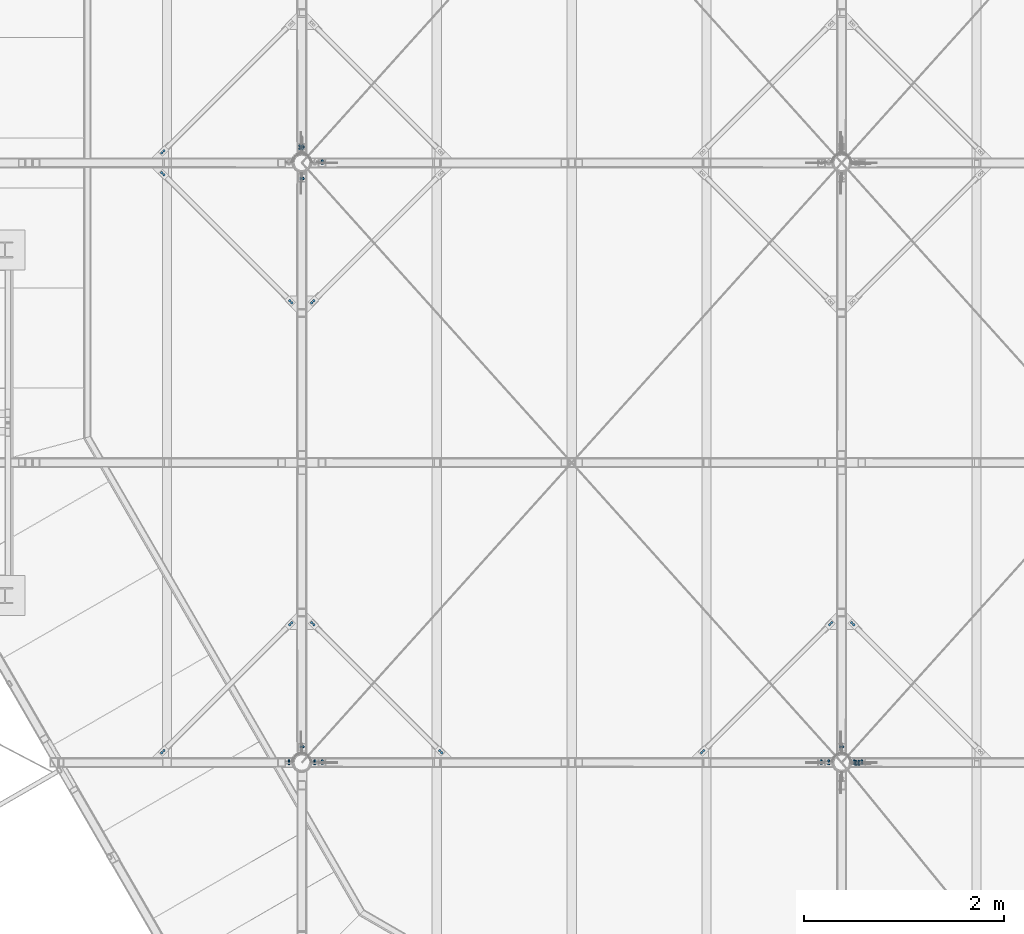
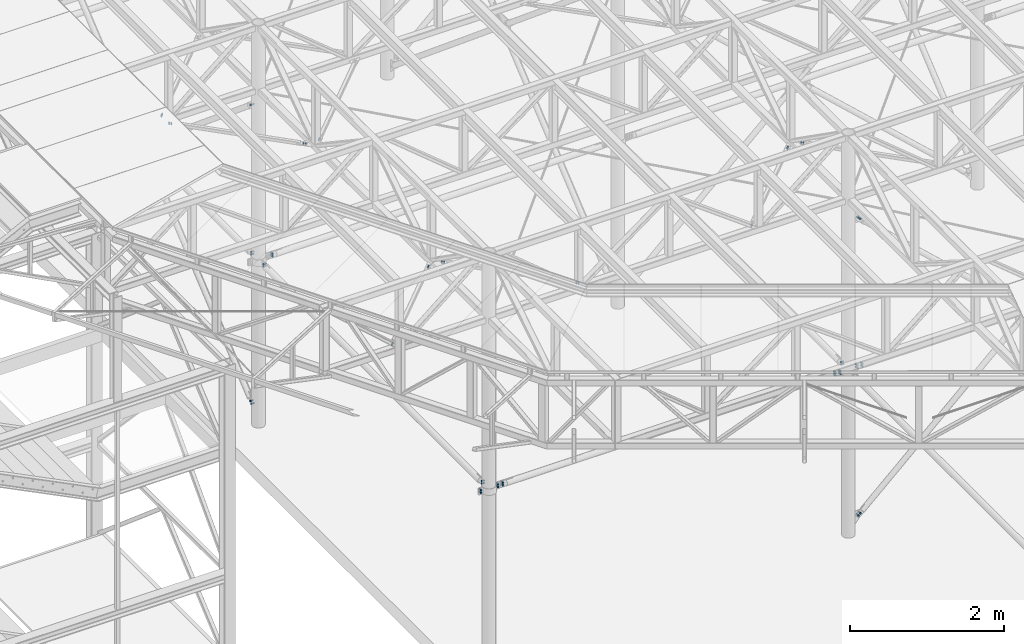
# One storey, part 115 of 132: 29 mechanical fasteners, 21 elements without a shape of their own.
"""IFC2X3 building model written with IfcOpenShell, lengths in millimetres."""

from ifc_helpers import new_model, si_unit, frame, origin_with_axes, origin_2d_with_axis, place, context, subcontext, project, spatial, polyline, circle, outline, extrude, source, transform, mapped, material, type_object, element, aggregate, save


model = new_model("IFC2X3")

# Units and contexts
model_context = context("Model", 3, precision=1e-05, world=origin_with_axes())
body_context = subcontext(model_context, "Body", "Model", "MODEL_VIEW")
ifc_project = project(units=[si_unit("LENGTHUNIT", "METRE", prefix="MILLI"), si_unit("AREAUNIT", "SQUARE_METRE"), si_unit("VOLUMEUNIT", "CUBIC_METRE"), si_unit("MASSUNIT", "GRAM", prefix="KILO"), si_unit("TIMEUNIT", "SECOND"), si_unit("PLANEANGLEUNIT", "RADIAN"), si_unit("SOLIDANGLEUNIT", "STERADIAN"), si_unit("THERMODYNAMICTEMPERATUREUNIT", "DEGREE_CELSIUS"), si_unit("LUMINOUSINTENSITYUNIT", "LUMEN")], contexts=[model_context])

# Site, building, storey
site_placement = place(None, origin_with_axes())
site = spatial("IfcSite", under=ifc_project, at=site_placement, Name="Budowa", CompositionType="ELEMENT")
building_placement = place(site_placement, origin_with_axes())
building = spatial("IfcBuilding", under=site, at=building_placement, Name="Undefined", CompositionType="ELEMENT")
storey_placement = place(building_placement, origin_with_axes())
storey = spatial("IfcBuildingStorey", under=building, at=storey_placement, Name="Undefined", CompositionType="ELEMENT", Elevation=0.0)

# Assembly, mechanical fastener
assembly_1_placement = place(storey_placement, origin_with_axes())
assembly_1 = element("IfcElementAssembly", 1, at=assembly_1_placement, inside=storey, Name="Steel Assembly", AssemblyPlace="NOTDEFINED", PredefinedType="RIGID_FRAME")
ifc_material = material(Name="Undefined")
discrete_accessory_type = type_object("IfcDiscreteAccessoryType", Name="Bolt assembly")
shared_shape_1 = source(origin_with_axes(), body_context, "Body", "SweptSolid", [
    extrude(circle(Radius=9.0, at=origin_2d_with_axis()), frame((0.0, 0.0999999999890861, 0.0), z_axis=(0.0, 1.0, 0.0), x_axis=(1.0, 0.0, 0.0)), (0.0, 0.0, 1.0), 8.0),
    extrude(circle(Radius=9.0, at=origin_2d_with_axis()), frame((0.0, 11.9000000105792, 0.0), z_axis=(0.0, 1.0, 0.0), x_axis=(1.0, 0.0, 0.0)), (0.0, 0.0, 1.0), 8.1),
    extrude(outline(polyline([(13.85640646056, 0.0), (6.92820323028, 12.0000000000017), (-6.92820323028, 12.0000000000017), (-13.85640646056, 0.0), (-6.92820323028, -12.0000000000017), (6.92820323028, -12.0000000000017), (13.85640646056, 0.0)])), frame((0.0, -13.0, 0.0), z_axis=(0.0, 1.0, 0.0), x_axis=(1.0, 0.0, 0.0)), (0.0, 0.0, 1.0), 10.0),
    extrude(circle(Radius=8.0, at=origin_2d_with_axis()), frame((0.0, -2.99999999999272, 0.0), z_axis=(0.0, 1.0, 0.0), x_axis=(1.0, 0.0, 0.0)), (0.0, 0.0, 1.0), 45.0),
    extrude(circle(Radius=15.0, at=origin_2d_with_axis()), frame((0.0, -2.99999999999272, 0.0), z_axis=(0.0, 1.0, 0.0), x_axis=(1.0, 0.0, 0.0)), (0.0, 0.0, 1.0), 3.0),
    extrude(circle(Radius=15.0, at=origin_2d_with_axis()), frame((0.0, 20.0000000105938, 0.0), z_axis=(0.0, 1.0, 0.0), x_axis=(1.0, 0.0, 0.0)), (0.0, 0.0, 1.0), 3.0),
    extrude(outline(polyline([(13.85640646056, 0.0), (6.92820323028, 12.0000000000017), (-6.92820323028, 12.0000000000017), (-13.85640646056, 0.0), (-6.92820323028, -12.0000000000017), (6.92820323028, -12.0000000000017), (13.85640646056, 0.0)])), frame((0.0, 23.0000000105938, 0.0), z_axis=(0.0, 1.0, 0.0), x_axis=(1.0, 0.0, 0.0)), (0.0, 0.0, 1.0), 13.0),
])
mechanical_fastener_1_placement = place(assembly_1_placement, frame((3896.86328702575, 5990.00000009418, 10096.0003779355), z_axis=(-1.0, 0.0, 0.0), x_axis=(0.0, 0.0, 1.0)))
mechanical_fastener_1 = element("IfcMechanicalFastener", 2, at=mechanical_fastener_1_placement, type_object=discrete_accessory_type, material=ifc_material, Name="Bolt assembly", NominalDiameter=16.0, NominalLength=45.0, context=body_context, shape_type="MappedRepresentation", body=[
    mapped(shared_shape_1, transform((0.0, 0.0, 0.0))),
    mapped(shared_shape_1, transform((40.0000000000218, 0.0, -1.81898940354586e-12))),
])

assembly_2_placement = place(storey_placement, origin_with_axes())
assembly_2 = element("IfcElementAssembly", 3, at=assembly_2_placement, inside=storey, Name="Steel Assembly", AssemblyPlace="NOTDEFINED", PredefinedType="RIGID_FRAME")
mechanical_fastener_2_placement = place(assembly_2_placement, frame((9296.86328710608, 5990.00000004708, 10096.0003779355), z_axis=(-1.0, 0.0, 0.0), x_axis=(0.0, 0.0, 1.0)))
mechanical_fastener_2 = element("IfcMechanicalFastener", 4, at=mechanical_fastener_2_placement, type_object=discrete_accessory_type, material=ifc_material, Name="Bolt assembly", NominalDiameter=16.0, NominalLength=45.0, context=body_context, shape_type="MappedRepresentation", body=[
    mapped(shared_shape_1, transform((0.0, 0.0, 0.0))),
    mapped(shared_shape_1, transform((40.0000000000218, 0.0, -1.81898940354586e-12))),
])

assembly_3_placement = place(storey_placement, origin_with_axes())
assembly_3 = element("IfcElementAssembly", 5, at=assembly_3_placement, inside=storey, Name="Steel Assembly", AssemblyPlace="NOTDEFINED", PredefinedType="RIGID_FRAME")
shared_shape_2 = source(origin_with_axes(), body_context, "Body", "SweptSolid", [
    extrude(circle(Radius=9.0, at=origin_2d_with_axis()), frame((0.0, -4.09999999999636, 0.0), z_axis=(0.0, 1.0, 0.0), x_axis=(1.0, 0.0, 0.0)), (0.0, 0.0, 1.0), 8.1),
    extrude(circle(Radius=9.0, at=origin_2d_with_axis()), frame((0.0, -11.9, 0.0), z_axis=(0.0, 1.0, 0.0), x_axis=(1.0, 0.0, 0.0)), (0.0, 0.0, 1.0), 8.0),
    extrude(outline(polyline([(13.85640646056, 0.0), (6.92820323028, 12.0000000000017), (-6.92820323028, 12.0000000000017), (-13.85640646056, 0.0), (-6.92820323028, -12.0000000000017), (6.92820323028, -12.0000000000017), (13.85640646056, 0.0)])), frame((0.0, -25.0, 0.0), z_axis=(0.0, 1.0, 0.0), x_axis=(1.0, 0.0, 0.0)), (0.0, 0.0, 1.0), 10.0),
    extrude(circle(Radius=8.0, at=origin_2d_with_axis()), frame((0.0, -15.0, 0.0), z_axis=(0.0, 1.0, 0.0), x_axis=(1.0, 0.0, 0.0)), (0.0, 0.0, 1.0), 40.0),
    extrude(circle(Radius=15.0, at=origin_2d_with_axis()), frame((0.0, -15.0, 0.0), z_axis=(0.0, 1.0, 0.0), x_axis=(1.0, 0.0, 0.0)), (0.0, 0.0, 1.0), 3.0),
    extrude(circle(Radius=15.0, at=origin_2d_with_axis()), frame((0.0, 4.0, 0.0), z_axis=(0.0, 1.0, 0.0), x_axis=(1.0, 0.0, 0.0)), (0.0, 0.0, 1.0), 3.0),
    extrude(outline(polyline([(13.85640646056, 0.0), (6.92820323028, 12.0000000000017), (-6.92820323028, 12.0000000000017), (-13.85640646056, 0.0), (-6.92820323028, -12.0000000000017), (6.92820323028, -12.0000000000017), (13.85640646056, 0.0)])), frame((0.0, 7.0, 0.0), z_axis=(0.0, 1.0, 0.0), x_axis=(1.0, 0.0, 0.0)), (0.0, 0.0, 1.0), 13.0),
])
mechanical_fastener_3_placement = place(assembly_3_placement, frame((4025.0000027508, 12157.9079054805, 10116.0003779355), z_axis=(0.0, 0.0, -1.0), x_axis=(0.0, 1.0, 0.0)))
mechanical_fastener_3 = element("IfcMechanicalFastener", 6, at=mechanical_fastener_3_placement, type_object=discrete_accessory_type, material=ifc_material, Name="Bolt assembly", NominalDiameter=16.0, NominalLength=40.0, context=body_context, shape_type="MappedRepresentation", body=[
    mapped(shared_shape_2, transform((0.0, 0.0, -20.0))),
    mapped(shared_shape_2, transform((0.0, 0.0, 20.0))),
])
aggregate(assembly_3, [mechanical_fastener_3])

# Assembly, mechanical fasteners
assembly_4_placement = place(storey_placement, origin_with_axes())
assembly_4 = element("IfcElementAssembly", 7, at=assembly_4_placement, inside=storey, Name="Steel Assembly", AssemblyPlace="NOTDEFINED", PredefinedType="RIGID_FRAME")
mechanical_fastener_4_placement = place(assembly_4_placement, frame((4025.00000247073, 11842.0920947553, 10116.0003779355), z_axis=(0.0, 0.0, 1.0), x_axis=(0.0, -1.0, 0.0)))
mechanical_fastener_4 = element("IfcMechanicalFastener", 8, at=mechanical_fastener_4_placement, type_object=discrete_accessory_type, material=ifc_material, Name="Bolt assembly", NominalDiameter=16.0, NominalLength=40.0, context=body_context, shape_type="MappedRepresentation", body=[
    mapped(shared_shape_2, transform((0.0, 0.0, -20.0))),
    mapped(shared_shape_2, transform((0.0, 0.0, 20.0))),
])
mechanical_fastener_5_placement = place(assembly_4_placement, frame((4025.0000027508, 6157.90790548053, 10116.0003779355), z_axis=(0.0, 0.0, -1.0), x_axis=(0.0, 1.0, 0.0)))
mechanical_fastener_5 = element("IfcMechanicalFastener", 9, at=mechanical_fastener_5_placement, type_object=discrete_accessory_type, material=ifc_material, Name="Bolt assembly", NominalDiameter=16.0, NominalLength=40.0, context=body_context, shape_type="MappedRepresentation", body=[
    mapped(shared_shape_2, transform((0.0, 0.0, -20.0))),
    mapped(shared_shape_2, transform((0.0, 0.0, 20.0))),
])
aggregate(assembly_4, [mechanical_fastener_4, mechanical_fastener_5])

# Assembly, mechanical fastener
assembly_5_placement = place(storey_placement, origin_with_axes())
assembly_5 = element("IfcElementAssembly", 10, at=assembly_5_placement, inside=storey, Name="Steel Assembly", AssemblyPlace="NOTDEFINED", PredefinedType="RIGID_FRAME")
mechanical_fastener_6_placement = place(assembly_5_placement, frame((9425.00000277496, 6157.90790542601, 10116.0003779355), z_axis=(0.0, 0.0, -1.0), x_axis=(0.0, 1.0, 0.0)))
mechanical_fastener_6 = element("IfcMechanicalFastener", 11, at=mechanical_fastener_6_placement, type_object=discrete_accessory_type, material=ifc_material, Name="Bolt assembly", NominalDiameter=16.0, NominalLength=40.0, context=body_context, shape_type="MappedRepresentation", body=[
    mapped(shared_shape_2, transform((0.0, 0.0, -20.0))),
    mapped(shared_shape_2, transform((0.0, 0.0, 20.0))),
])
aggregate(assembly_5, [mechanical_fastener_6])

assembly_6_placement = place(storey_placement, origin_with_axes())
assembly_6 = element("IfcElementAssembly", 12, at=assembly_6_placement, inside=storey, Name="Steel Assembly", AssemblyPlace="NOTDEFINED", PredefinedType="RIGID_FRAME")
mechanical_fastener_7_placement = place(assembly_6_placement, frame((9565.67385234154, 5999.99999762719, 7751.79053475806), z_axis=(-0.678551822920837, 0.0, 0.734552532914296), x_axis=(0.734552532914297, 0.0, 0.678551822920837)))
mechanical_fastener_7 = element("IfcMechanicalFastener", 13, at=mechanical_fastener_7_placement, type_object=discrete_accessory_type, material=ifc_material, Name="Bolt assembly", NominalDiameter=16.0, NominalLength=40.0, context=body_context, shape_type="MappedRepresentation", body=[
    mapped(shared_shape_2, transform((0.0, 0.0, 0.0))),
    mapped(shared_shape_2, transform((40.0000000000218, 0.0, -1.81898940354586e-12))),
])
aggregate(assembly_6, [mechanical_fastener_7])

assembly_7_placement = place(storey_placement, origin_with_axes())
assembly_7 = element("IfcElementAssembly", 14, at=assembly_7_placement, inside=storey, Name="Steel Assembly", AssemblyPlace="NOTDEFINED", PredefinedType="RIGID_FRAME")
mechanical_fastener_8_placement = place(assembly_7_placement, frame((9565.67385211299, 5999.99999752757, 12480.210221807), z_axis=(0.678551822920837, 0.0, 0.734552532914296), x_axis=(0.734552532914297, 0.0, -0.678551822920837)))
mechanical_fastener_8 = element("IfcMechanicalFastener", 15, at=mechanical_fastener_8_placement, type_object=discrete_accessory_type, material=ifc_material, Name="Bolt assembly", NominalDiameter=16.0, NominalLength=40.0, context=body_context, shape_type="MappedRepresentation", body=[
    mapped(shared_shape_2, transform((0.0, 0.0, 0.0))),
    mapped(shared_shape_2, transform((40.0000000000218, 0.0, -1.81898940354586e-12))),
])
aggregate(assembly_7, [mechanical_fastener_8])

assembly_8_placement = place(storey_placement, origin_with_axes())
assembly_8 = element("IfcElementAssembly", 16, at=assembly_8_placement, inside=storey, Name="Steel Assembly", AssemblyPlace="NOTDEFINED", PredefinedType="RIGID_FRAME")
shared_shape_3 = source(origin_with_axes(), body_context, "Body", "SweptSolid", [
    extrude(circle(Radius=9.0, at=origin_2d_with_axis()), frame((0.0, 0.0999999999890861, 0.0), z_axis=(0.0, 1.0, 0.0), x_axis=(1.0, 0.0, 0.0)), (0.0, 0.0, 1.0), 8.0),
    extrude(circle(Radius=9.0, at=origin_2d_with_axis()), frame((0.0, 7.9000007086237, 0.0), z_axis=(0.0, 1.0, 0.0), x_axis=(1.0, 0.0, 0.0)), (0.0, 0.0, 1.0), 8.1),
    extrude(outline(polyline([(13.85640646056, 0.0), (6.92820323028, 12.0000000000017), (-6.92820323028, 12.0000000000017), (-13.85640646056, 0.0), (-6.92820323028, -12.0000000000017), (6.92820323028, -12.0000000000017), (13.85640646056, 0.0)])), frame((0.0, -13.0, 0.0), z_axis=(0.0, 1.0, 0.0), x_axis=(1.0, 0.0, 0.0)), (0.0, 0.0, 1.0), 10.0),
    extrude(circle(Radius=8.0, at=origin_2d_with_axis()), frame((0.0, -2.99999999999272, 0.0), z_axis=(0.0, 1.0, 0.0), x_axis=(1.0, 0.0, 0.0)), (0.0, 0.0, 1.0), 40.0),
    extrude(circle(Radius=15.0, at=origin_2d_with_axis()), frame((0.0, -2.99999999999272, 0.0), z_axis=(0.0, 1.0, 0.0), x_axis=(1.0, 0.0, 0.0)), (0.0, 0.0, 1.0), 3.0),
    extrude(circle(Radius=15.0, at=origin_2d_with_axis()), frame((0.0, 16.0000007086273, 0.0), z_axis=(0.0, 1.0, 0.0), x_axis=(1.0, 0.0, 0.0)), (0.0, 0.0, 1.0), 3.0),
    extrude(outline(polyline([(13.85640646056, 0.0), (6.92820323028, 12.0000000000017), (-6.92820323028, 12.0000000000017), (-13.85640646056, 0.0), (-6.92820323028, -12.0000000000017), (6.92820323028, -12.0000000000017), (13.85640646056, 0.0)])), frame((0.0, 19.0000007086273, 0.0), z_axis=(0.0, 1.0, 0.0), x_axis=(1.0, 0.0, 0.0)), (0.0, 0.0, 1.0), 13.0),
])
mechanical_fastener_9_placement = place(assembly_8_placement, frame((4228.13669400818, 11993.9999994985, 10096.0003779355), z_axis=(-1.0, 0.0, 0.0), x_axis=(0.0, 0.0, 1.0)))
mechanical_fastener_9 = element("IfcMechanicalFastener", 17, at=mechanical_fastener_9_placement, type_object=discrete_accessory_type, material=ifc_material, Name="Bolt assembly", NominalDiameter=16.0, NominalLength=40.0, context=body_context, shape_type="MappedRepresentation", body=[
    mapped(shared_shape_3, transform((0.0, 0.0, 0.0))),
    mapped(shared_shape_3, transform((40.0000000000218, 0.0, -1.81898940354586e-12))),
])
aggregate(assembly_8, [mechanical_fastener_9])

# Mechanical fastener
mechanical_fastener_10_placement = place(assembly_1_placement, frame((4228.13669400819, 5993.99999949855, 10096.0003779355), z_axis=(-1.0, 0.0, 0.0), x_axis=(0.0, 0.0, 1.0)))
mechanical_fastener_10 = element("IfcMechanicalFastener", 18, at=mechanical_fastener_10_placement, type_object=discrete_accessory_type, material=ifc_material, Name="Bolt assembly", NominalDiameter=16.0, NominalLength=40.0, context=body_context, shape_type="MappedRepresentation", body=[
    mapped(shared_shape_3, transform((0.0, 0.0, 0.0))),
    mapped(shared_shape_3, transform((40.0000000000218, 0.0, -1.81898940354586e-12))),
])

aggregate(assembly_1, [mechanical_fastener_10, mechanical_fastener_1])

mechanical_fastener_11_placement = place(assembly_2_placement, frame((9221.86330560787, 5993.99999945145, 10096.0003779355), z_axis=(-1.0, 0.0, 0.0), x_axis=(0.0, 0.0, 1.0)))
mechanical_fastener_11 = element("IfcMechanicalFastener", 19, at=mechanical_fastener_11_placement, type_object=discrete_accessory_type, material=ifc_material, Name="Bolt assembly", NominalDiameter=16.0, NominalLength=40.0, context=body_context, shape_type="MappedRepresentation", body=[
    mapped(shared_shape_3, transform((0.0, 0.0, 0.0))),
    mapped(shared_shape_3, transform((40.0000000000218, 0.0, -1.81898940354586e-12))),
])

mechanical_fastener_12_placement = place(assembly_2_placement, frame((9628.13669408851, 5993.99999945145, 10096.0003779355), z_axis=(-1.0, 0.0, 0.0), x_axis=(0.0, 0.0, 1.0)))
mechanical_fastener_12 = element("IfcMechanicalFastener", 20, at=mechanical_fastener_12_placement, type_object=discrete_accessory_type, material=ifc_material, Name="Bolt assembly", NominalDiameter=16.0, NominalLength=40.0, context=body_context, shape_type="MappedRepresentation", body=[
    mapped(shared_shape_3, transform((0.0, 0.0, 0.0))),
    mapped(shared_shape_3, transform((40.0000000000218, 0.0, -1.81898940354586e-12))),
])

aggregate(assembly_2, [mechanical_fastener_11, mechanical_fastener_12, mechanical_fastener_2])

# Assembly, mechanical fastener
assembly_9_placement = place(storey_placement, origin_with_axes())
assembly_9 = element("IfcElementAssembly", 21, at=assembly_9_placement, inside=storey, Name="Steel Assembly", AssemblyPlace="NOTDEFINED", PredefinedType="RIGID_FRAME")
shared_shape_4 = source(origin_with_axes(), body_context, "Body", "SweptSolid", [
    extrude(circle(Radius=9.0, at=origin_2d_with_axis()), frame((0.0, 11.9000000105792, 0.0), z_axis=(0.0, 1.0, 0.0), x_axis=(1.0, 0.0, 0.0)), (0.0, 0.0, 1.0), 8.1),
    extrude(circle(Radius=9.0, at=origin_2d_with_axis()), frame((0.0, 0.0999999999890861, 0.0), z_axis=(0.0, 1.0, 0.0), x_axis=(1.0, 0.0, 0.0)), (0.0, 0.0, 1.0), 8.0),
    extrude(outline(polyline([(13.85640646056, 0.0), (6.92820323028, 12.0000000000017), (-6.92820323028, 12.0000000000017), (-13.85640646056, 0.0), (-6.92820323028, -12.0000000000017), (6.92820323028, -12.0000000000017), (13.85640646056, 0.0)])), frame((0.0, -13.0, 0.0), z_axis=(0.0, 1.0, 0.0), x_axis=(1.0, 0.0, 0.0)), (0.0, 0.0, 1.0), 10.0),
    extrude(circle(Radius=8.0, at=origin_2d_with_axis()), frame((0.0, -2.99999999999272, 0.0), z_axis=(0.0, 1.0, 0.0), x_axis=(1.0, 0.0, 0.0)), (0.0, 0.0, 1.0), 45.0),
    extrude(circle(Radius=15.0, at=origin_2d_with_axis()), frame((0.0, -2.99999999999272, 0.0), z_axis=(0.0, 1.0, 0.0), x_axis=(1.0, 0.0, 0.0)), (0.0, 0.0, 1.0), 3.0),
    extrude(circle(Radius=15.0, at=origin_2d_with_axis()), frame((0.0, 20.0000000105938, 0.0), z_axis=(0.0, 1.0, 0.0), x_axis=(1.0, 0.0, 0.0)), (0.0, 0.0, 1.0), 3.0),
    extrude(outline(polyline([(13.85640646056, 0.0), (6.92820323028, 12.0000000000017), (-6.92820323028, 12.0000000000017), (-13.85640646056, 0.0), (-6.92820323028, -12.0000000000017), (6.92820323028, -12.0000000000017), (13.85640646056, 0.0)])), frame((0.0, 23.0000000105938, 0.0), z_axis=(0.0, 1.0, 0.0), x_axis=(1.0, 0.0, 0.0)), (0.0, 0.0, 1.0), 13.0),
])
mechanical_fastener_13_placement = place(assembly_9_placement, frame((4153.13669400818, 5989.99999999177, 10096.0003779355), z_axis=(-1.0, 0.0, 0.0), x_axis=(0.0, 0.0, 1.0)))
mechanical_fastener_13 = element("IfcMechanicalFastener", 22, at=mechanical_fastener_13_placement, type_object=discrete_accessory_type, material=ifc_material, Name="Bolt assembly", NominalDiameter=16.0, NominalLength=45.0, context=body_context, shape_type="MappedRepresentation", body=[
    mapped(shared_shape_4, transform((0.0, 0.0, 0.0))),
    mapped(shared_shape_4, transform((40.0000000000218, 0.0, -1.81898940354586e-12))),
])
aggregate(assembly_9, [mechanical_fastener_13])

assembly_10_placement = place(storey_placement, origin_with_axes())
assembly_10 = element("IfcElementAssembly", 23, at=assembly_10_placement, inside=storey, Name="Steel Assembly", AssemblyPlace="NOTDEFINED", PredefinedType="RIGID_FRAME")
mechanical_fastener_14_placement = place(assembly_10_placement, frame((9553.13669408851, 5989.99999994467, 10096.0003779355), z_axis=(-1.0, 0.0, 0.0), x_axis=(0.0, 0.0, 1.0)))
mechanical_fastener_14 = element("IfcMechanicalFastener", 24, at=mechanical_fastener_14_placement, type_object=discrete_accessory_type, material=ifc_material, Name="Bolt assembly", NominalDiameter=16.0, NominalLength=45.0, context=body_context, shape_type="MappedRepresentation", body=[
    mapped(shared_shape_4, transform((0.0, 0.0, 0.0))),
    mapped(shared_shape_4, transform((40.0000000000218, 0.0, -1.81898940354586e-12))),
])
aggregate(assembly_10, [mechanical_fastener_14])

assembly_11_placement = place(storey_placement, origin_with_axes())
assembly_11 = element("IfcElementAssembly", 25, at=assembly_11_placement, inside=storey, Name="Steel Assembly", AssemblyPlace="NOTDEFINED", PredefinedType="RIGID_FRAME")
shared_shape_5 = source(origin_with_axes(), body_context, "Body", "SweptSolid", [
    extrude(circle(Radius=9.0, at=origin_2d_with_axis()), frame((0.0, -3.9000024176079, 0.0), z_axis=(0.0, 1.0, 0.0), x_axis=(1.0, 0.0, 0.0)), (0.0, 0.0, 1.0), 8.0),
    extrude(circle(Radius=9.0, at=origin_2d_with_axis()), frame((0.0, 3.90000010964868, 0.0), z_axis=(0.0, 1.0, 0.0), x_axis=(1.0, 0.0, 0.0)), (0.0, 0.0, 1.0), 8.1),
    extrude(outline(polyline([(13.85640646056, 0.0), (6.92820323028, 12.0000000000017), (-6.92820323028, 12.0000000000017), (-13.85640646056, 0.0), (-6.92820323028, -12.0000000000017), (6.92820323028, -12.0000000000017), (13.85640646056, 0.0)])), frame((0.0, -17.0000024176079, 0.0), z_axis=(0.0, 1.0, 0.0), x_axis=(1.0, 0.0, 0.0)), (0.0, 0.0, 1.0), 10.0),
    extrude(circle(Radius=8.0, at=origin_2d_with_axis()), frame((0.0, -7.0000024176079, 0.0), z_axis=(0.0, 1.0, 0.0), x_axis=(1.0, 0.0, 0.0)), (0.0, 0.0, 1.0), 40.0),
    extrude(circle(Radius=15.0, at=origin_2d_with_axis()), frame((0.0, -7.0000024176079, 0.0), z_axis=(0.0, 1.0, 0.0), x_axis=(1.0, 0.0, 0.0)), (0.0, 0.0, 1.0), 3.0),
    extrude(circle(Radius=15.0, at=origin_2d_with_axis()), frame((0.0, 12.0000001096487, 0.0), z_axis=(0.0, 1.0, 0.0), x_axis=(1.0, 0.0, 0.0)), (0.0, 0.0, 1.0), 3.0),
    extrude(outline(polyline([(13.85640646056, 0.0), (6.92820323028, 12.0000000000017), (-6.92820323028, 12.0000000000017), (-13.85640646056, 0.0), (-6.92820323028, -12.0000000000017), (6.92820323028, -12.0000000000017), (13.85640646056, 0.0)])), frame((0.0, 15.0000001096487, 0.0), z_axis=(0.0, 1.0, 0.0), x_axis=(1.0, 0.0, 0.0)), (0.0, 0.0, 1.0), 13.0),
])
mechanical_fastener_15_placement = place(assembly_11_placement, frame((4024.99999991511, 12140.1779391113, 7739.23081470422), z_axis=(0.0, -0.639165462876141, 0.769069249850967), x_axis=(0.0, 0.769069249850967, 0.639165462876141)))
mechanical_fastener_15 = element("IfcMechanicalFastener", 26, at=mechanical_fastener_15_placement, type_object=discrete_accessory_type, material=ifc_material, Name="Bolt assembly", NominalDiameter=16.0, NominalLength=40.0, context=body_context, shape_type="MappedRepresentation", body=[
    mapped(shared_shape_5, transform((0.0, 0.0, 0.0))),
    mapped(shared_shape_5, transform((40.0000000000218, 0.0, -1.81898940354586e-12))),
])
aggregate(assembly_11, [mechanical_fastener_15])

assembly_12_placement = place(storey_placement, origin_with_axes())
assembly_12 = element("IfcElementAssembly", 27, at=assembly_12_placement, inside=storey, Name="Steel Assembly", AssemblyPlace="NOTDEFINED", PredefinedType="RIGID_FRAME")
mechanical_fastener_16_placement = place(assembly_12_placement, frame((4024.99999991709, 12140.1779415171, 12492.7698566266), z_axis=(0.0, 0.639165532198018, 0.76906919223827), x_axis=(0.0, 0.769069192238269, -0.639165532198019)))
mechanical_fastener_16 = element("IfcMechanicalFastener", 28, at=mechanical_fastener_16_placement, type_object=discrete_accessory_type, material=ifc_material, Name="Bolt assembly", NominalDiameter=16.0, NominalLength=40.0, context=body_context, shape_type="MappedRepresentation", body=[
    mapped(shared_shape_5, transform((0.0, 0.0, 0.0))),
    mapped(shared_shape_5, transform((40.0000000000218, 0.0, -1.81898940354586e-12))),
])
aggregate(assembly_12, [mechanical_fastener_16])

assembly_13_placement = place(storey_placement, origin_with_axes())
assembly_13 = element("IfcElementAssembly", 29, at=assembly_13_placement, inside=storey, Name="Steel Assembly", AssemblyPlace="NOTDEFINED", PredefinedType="RIGID_FRAME")
shared_shape_6 = source(origin_with_axes(), body_context, "Body", "SweptSolid", [
    extrude(circle(Radius=9.5, at=origin_2d_with_axis()), frame((0.0, -2.10099750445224, 0.0), z_axis=(0.0, 1.0, 0.0), x_axis=(1.0, 0.0, 0.0)), (0.0, 0.0, 1.0), 8.1),
    extrude(circle(Radius=9.5, at=origin_2d_with_axis()), frame((0.0, -11.9, 0.0), z_axis=(0.0, 1.0, 0.0), x_axis=(1.0, 0.0, 0.0)), (0.0, 0.0, 1.0), 8.0),
    extrude(outline(polyline([(13.85640646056, 0.0), (6.92820323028, 12.0000000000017), (-6.92820323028, 12.0000000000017), (-13.85640646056, 0.0), (-6.92820323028, -12.0000000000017), (6.92820323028, -12.0000000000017), (13.85640646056, 0.0)])), frame((0.0, -25.0, 0.0), z_axis=(0.0, 1.0, 0.0), x_axis=(1.0, 0.0, 0.0)), (0.0, 0.0, 1.0), 10.0),
    extrude(circle(Radius=8.0, at=origin_2d_with_axis()), frame((0.0, -15.0, 0.0), z_axis=(0.0, 1.0, 0.0), x_axis=(1.0, 0.0, 0.0)), (0.0, 0.0, 1.0), 45.0),
    extrude(circle(Radius=15.0, at=origin_2d_with_axis()), frame((0.0, -15.0, 0.0), z_axis=(0.0, 1.0, 0.0), x_axis=(1.0, 0.0, 0.0)), (0.0, 0.0, 1.0), 3.0),
    extrude(circle(Radius=15.0, at=origin_2d_with_axis()), frame((0.0, 5.99900249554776, 0.0), z_axis=(0.0, 1.0, 0.0), x_axis=(1.0, 0.0, 0.0)), (0.0, 0.0, 1.0), 3.0),
    extrude(outline(polyline([(13.85640646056, 0.0), (6.92820323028, 12.0000000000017), (-6.92820323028, 12.0000000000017), (-13.85640646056, 0.0), (-6.92820323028, -12.0000000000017), (6.92820323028, -12.0000000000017), (13.85640646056, 0.0)])), frame((0.0, 8.99900249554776, 0.0), z_axis=(0.0, 1.0, 0.0), x_axis=(1.0, 0.0, 0.0)), (0.0, 0.0, 1.0), 13.0),
])
mechanical_fastener_17_placement = place(assembly_13_placement, frame((9565.67385240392, 5997.99999762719, 7751.79053481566), z_axis=(-0.678551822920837, 0.0, 0.734552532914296), x_axis=(0.734552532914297, 0.0, 0.678551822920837)))
mechanical_fastener_17 = element("IfcMechanicalFastener", 30, at=mechanical_fastener_17_placement, type_object=discrete_accessory_type, material=ifc_material, Name="Bolt assembly", NominalDiameter=16.0, NominalLength=45.0, context=body_context, shape_type="MappedRepresentation", body=[
    mapped(shared_shape_6, transform((0.0, 0.0, 0.0))),
    mapped(shared_shape_6, transform((40.0000000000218, 0.0, -1.81898940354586e-12))),
])
aggregate(assembly_13, [mechanical_fastener_17])

assembly_14_placement = place(storey_placement, origin_with_axes())
assembly_14 = element("IfcElementAssembly", 31, at=assembly_14_placement, inside=storey, Name="Steel Assembly", AssemblyPlace="NOTDEFINED", PredefinedType="RIGID_FRAME")
mechanical_fastener_18_placement = place(assembly_14_placement, frame((9565.67385217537, 5997.99999752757, 12480.2102217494), z_axis=(0.678551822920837, 0.0, 0.734552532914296), x_axis=(0.734552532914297, 0.0, -0.678551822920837)))
mechanical_fastener_18 = element("IfcMechanicalFastener", 32, at=mechanical_fastener_18_placement, type_object=discrete_accessory_type, material=ifc_material, Name="Bolt assembly", NominalDiameter=16.0, NominalLength=45.0, context=body_context, shape_type="MappedRepresentation", body=[
    mapped(shared_shape_6, transform((0.0, 0.0, 0.0))),
    mapped(shared_shape_6, transform((40.0000000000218, 0.0, -1.81898940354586e-12))),
])
aggregate(assembly_14, [mechanical_fastener_18])

assembly_15_placement = place(storey_placement, origin_with_axes())
assembly_15 = element("IfcElementAssembly", 33, at=assembly_15_placement, inside=storey, Name="Steel Assembly", AssemblyPlace="NOTDEFINED", PredefinedType="RIGID_FRAME")
shared_shape_7 = source(origin_with_axes(), body_context, "Body", "SweptSolid", [
    extrude(circle(Radius=6.5, at=origin_2d_with_axis()), frame((0.0, -3.1, 0.0), z_axis=(0.0, 1.0, 0.0), x_axis=(1.0, 0.0, 0.0)), (0.0, 0.0, 1.0), 6.1),
    extrude(circle(Radius=6.5, at=origin_2d_with_axis()), frame((0.0, -8.9, 0.0), z_axis=(0.0, 1.0, 0.0), x_axis=(1.0, 0.0, 0.0)), (0.0, 0.0, 1.0), 6.0),
    extrude(outline(polyline([(10.39230484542, 0.0), (5.19615242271, 9.00000000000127), (-5.19615242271, 9.00000000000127), (-10.39230484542, 0.0), (-5.19615242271, -9.00000000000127), (5.19615242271, -9.00000000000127), (10.39230484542, 0.0)])), frame((0.0, -19.5, 0.0), z_axis=(0.0, 1.0, 0.0), x_axis=(1.0, 0.0, 0.0)), (0.0, 0.0, 1.0), 7.5),
    extrude(circle(Radius=6.0, at=origin_2d_with_axis()), frame((0.0, -12.0, 0.0), z_axis=(0.0, 1.0, 0.0), x_axis=(1.0, 0.0, 0.0)), (0.0, 0.0, 1.0), 35.0),
    extrude(circle(Radius=12.0, at=origin_2d_with_axis()), frame((0.0, -12.0, 0.0), z_axis=(0.0, 1.0, 0.0), x_axis=(1.0, 0.0, 0.0)), (0.0, 0.0, 1.0), 3.0),
    extrude(circle(Radius=12.0, at=origin_2d_with_axis()), frame((0.0, 3.0, 0.0), z_axis=(0.0, 1.0, 0.0), x_axis=(1.0, 0.0, 0.0)), (0.0, 0.0, 1.0), 3.0),
    extrude(outline(polyline([(10.96965511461, 0.0), (5.484827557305, 9.50000000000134), (-5.484827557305, 9.50000000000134), (-10.96965511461, 0.0), (-5.484827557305, -9.50000000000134), (5.484827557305, -9.50000000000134), (10.96965511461, 0.0)])), frame((0.0, 6.0, 0.0), z_axis=(0.0, 1.0, 0.0), x_axis=(1.0, 0.0, 0.0)), (0.0, 0.0, 1.0), 10.0),
])
mechanical_fastener_19_placement = place(assembly_15_placement, frame((9524.35534088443, 7400.44465916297, 12824.0), z_axis=(0.707106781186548, 0.707106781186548, 0.0), x_axis=(0.707106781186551, -0.707106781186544, 0.0)))
mechanical_fastener_19 = element("IfcMechanicalFastener", 34, at=mechanical_fastener_19_placement, type_object=discrete_accessory_type, material=ifc_material, Name="Bolt assembly", NominalDiameter=12.0, NominalLength=35.0, context=body_context, shape_type="MappedRepresentation", body=[
    mapped(shared_shape_7, transform((0.0, 0.0, 0.0))),
    mapped(shared_shape_7, transform((29.9999999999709, 0.0, -1.16415321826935e-10))),
])
aggregate(assembly_15, [mechanical_fastener_19])

# Assembly, mechanical fasteners
assembly_16_placement = place(storey_placement, origin_with_axes())
assembly_16 = element("IfcElementAssembly", 35, at=assembly_16_placement, inside=storey, Name="Steel Assembly", AssemblyPlace="NOTDEFINED", PredefinedType="RIGID_FRAME")
mechanical_fastener_20_placement = place(assembly_16_placement, frame((8024.55534082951, 6099.35534098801, 12824.0), z_axis=(-0.707106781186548, 0.707106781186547, 0.0), x_axis=(0.707106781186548, 0.707106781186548, 0.0)))
mechanical_fastener_20 = element("IfcMechanicalFastener", 36, at=mechanical_fastener_20_placement, type_object=discrete_accessory_type, material=ifc_material, Name="Bolt assembly", NominalDiameter=12.0, NominalLength=35.0, context=body_context, shape_type="MappedRepresentation", body=[
    mapped(shared_shape_7, transform((0.0, 0.0, 0.0))),
    mapped(shared_shape_7, transform((29.9999999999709, 0.0, -1.16415321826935e-10))),
])
mechanical_fastener_21_placement = place(assembly_16_placement, frame((9325.6446589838, 7400.4446591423, 12824.0), z_axis=(0.707106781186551, -0.707106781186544, 0.0), x_axis=(-0.70710678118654, -0.707106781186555, 0.0)))
mechanical_fastener_21 = element("IfcMechanicalFastener", 37, at=mechanical_fastener_21_placement, type_object=discrete_accessory_type, material=ifc_material, Name="Bolt assembly", NominalDiameter=12.0, NominalLength=35.0, context=body_context, shape_type="MappedRepresentation", body=[
    mapped(shared_shape_7, transform((0.0, 0.0, 0.0))),
    mapped(shared_shape_7, transform((29.9999999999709, 0.0, -1.16415321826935e-10))),
])
aggregate(assembly_16, [mechanical_fastener_20, mechanical_fastener_21])

assembly_17_placement = place(storey_placement, origin_with_axes())
assembly_17 = element("IfcElementAssembly", 38, at=assembly_17_placement, inside=storey, Name="Steel Assembly", AssemblyPlace="NOTDEFINED", PredefinedType="RIGID_FRAME")
mechanical_fastener_22_placement = place(assembly_17_placement, frame((5425.4446590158, 6099.35534100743, 12824.0), z_axis=(-0.70710678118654, -0.707106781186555, 0.0), x_axis=(-0.707106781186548, 0.707106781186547, 0.0)))
mechanical_fastener_22 = element("IfcMechanicalFastener", 39, at=mechanical_fastener_22_placement, type_object=discrete_accessory_type, material=ifc_material, Name="Bolt assembly", NominalDiameter=12.0, NominalLength=35.0, context=body_context, shape_type="MappedRepresentation", body=[
    mapped(shared_shape_7, transform((0.0, 0.0, 0.0))),
    mapped(shared_shape_7, transform((29.9999999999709, 0.0, -1.16415321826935e-10))),
])
mechanical_fastener_23_placement = place(assembly_17_placement, frame((4124.35534086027, 7400.44465916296, 12824.0), z_axis=(0.707106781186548, 0.707106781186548, 0.0), x_axis=(0.707106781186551, -0.707106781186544, 0.0)))
mechanical_fastener_23 = element("IfcMechanicalFastener", 40, at=mechanical_fastener_23_placement, type_object=discrete_accessory_type, material=ifc_material, Name="Bolt assembly", NominalDiameter=12.0, NominalLength=35.0, context=body_context, shape_type="MappedRepresentation", body=[
    mapped(shared_shape_7, transform((0.0, 0.0, 0.0))),
    mapped(shared_shape_7, transform((29.9999999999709, 0.0, -1.16415321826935e-10))),
])
aggregate(assembly_17, [mechanical_fastener_22, mechanical_fastener_23])

assembly_18_placement = place(storey_placement, origin_with_axes())
assembly_18 = element("IfcElementAssembly", 41, at=assembly_18_placement, inside=storey, Name="Steel Assembly", AssemblyPlace="NOTDEFINED", PredefinedType="RIGID_FRAME")
mechanical_fastener_24_placement = place(assembly_18_placement, frame((2624.55534080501, 6099.35534098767, 12824.0), z_axis=(-0.707106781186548, 0.707106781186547, 0.0), x_axis=(0.707106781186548, 0.707106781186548, 0.0)))
mechanical_fastener_24 = element("IfcMechanicalFastener", 42, at=mechanical_fastener_24_placement, type_object=discrete_accessory_type, material=ifc_material, Name="Bolt assembly", NominalDiameter=12.0, NominalLength=35.0, context=body_context, shape_type="MappedRepresentation", body=[
    mapped(shared_shape_7, transform((0.0, 0.0, 0.0))),
    mapped(shared_shape_7, transform((29.9999999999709, 0.0, -1.16415321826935e-10))),
])
mechanical_fastener_25_placement = place(assembly_18_placement, frame((3925.64465895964, 7400.4446591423, 12824.0), z_axis=(0.707106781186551, -0.707106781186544, 0.0), x_axis=(-0.70710678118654, -0.707106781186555, 0.0)))
mechanical_fastener_25 = element("IfcMechanicalFastener", 43, at=mechanical_fastener_25_placement, type_object=discrete_accessory_type, material=ifc_material, Name="Bolt assembly", NominalDiameter=12.0, NominalLength=35.0, context=body_context, shape_type="MappedRepresentation", body=[
    mapped(shared_shape_7, transform((0.0, 0.0, 0.0))),
    mapped(shared_shape_7, transform((29.9999999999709, 0.0, -1.16415321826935e-10))),
])
aggregate(assembly_18, [mechanical_fastener_24, mechanical_fastener_25])

# Assembly, mechanical fastener
assembly_19_placement = place(storey_placement, origin_with_axes())
assembly_19 = element("IfcElementAssembly", 44, at=assembly_19_placement, inside=storey, Name="Steel Assembly", AssemblyPlace="NOTDEFINED", PredefinedType="RIGID_FRAME")
mechanical_fastener_26_placement = place(assembly_19_placement, frame((4124.3553408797, 10599.3553410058, 12824.0), z_axis=(-0.707106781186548, 0.707106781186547, 0.0), x_axis=(0.707106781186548, 0.707106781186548, 0.0)))
mechanical_fastener_26 = element("IfcMechanicalFastener", 45, at=mechanical_fastener_26_placement, type_object=discrete_accessory_type, material=ifc_material, Name="Bolt assembly", NominalDiameter=12.0, NominalLength=35.0, context=body_context, shape_type="MappedRepresentation", body=[
    mapped(shared_shape_7, transform((0.0, 0.0, 0.0))),
    mapped(shared_shape_7, transform((29.9999999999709, 0.0, -1.16415321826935e-10))),
])
aggregate(assembly_19, [mechanical_fastener_26])

assembly_20_placement = place(storey_placement, origin_with_axes())
assembly_20 = element("IfcElementAssembly", 46, at=assembly_20_placement, inside=storey, Name="Steel Assembly", AssemblyPlace="NOTDEFINED", PredefinedType="RIGID_FRAME")
mechanical_fastener_27_placement = place(assembly_20_placement, frame((2624.55534080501, 12099.3553409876, 12824.0), z_axis=(-0.707106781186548, 0.707106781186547, 0.0), x_axis=(0.707106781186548, 0.707106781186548, 0.0)))
mechanical_fastener_27 = element("IfcMechanicalFastener", 47, at=mechanical_fastener_27_placement, type_object=discrete_accessory_type, material=ifc_material, Name="Bolt assembly", NominalDiameter=12.0, NominalLength=35.0, context=body_context, shape_type="MappedRepresentation", body=[
    mapped(shared_shape_7, transform((0.0, 0.0, 0.0))),
    mapped(shared_shape_7, transform((29.9999999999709, 0.0, -1.16415321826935e-10))),
])
aggregate(assembly_20, [mechanical_fastener_27])

# Assembly, mechanical fasteners
assembly_21_placement = place(storey_placement, origin_with_axes())
assembly_21 = element("IfcElementAssembly", 48, at=assembly_21_placement, inside=storey, Name="Steel Assembly", AssemblyPlace="NOTDEFINED", PredefinedType="RIGID_FRAME")
mechanical_fastener_28_placement = place(assembly_21_placement, frame((2624.3553408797, 11900.644659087, 12824.0), z_axis=(0.707106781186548, 0.707106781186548, 0.0), x_axis=(0.707106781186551, -0.707106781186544, 0.0)))
mechanical_fastener_28 = element("IfcMechanicalFastener", 49, at=mechanical_fastener_28_placement, type_object=discrete_accessory_type, material=ifc_material, Name="Bolt assembly", NominalDiameter=12.0, NominalLength=35.0, context=body_context, shape_type="MappedRepresentation", body=[
    mapped(shared_shape_7, transform((0.0, 0.0, 0.0))),
    mapped(shared_shape_7, transform((29.9999999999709, 0.0, -1.16415321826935e-10))),
])
mechanical_fastener_29_placement = place(assembly_21_placement, frame((3925.64465897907, 10599.3553409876, 12824.0), z_axis=(-0.70710678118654, -0.707106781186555, 0.0), x_axis=(-0.707106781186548, 0.707106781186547, 0.0)))
mechanical_fastener_29 = element("IfcMechanicalFastener", 50, at=mechanical_fastener_29_placement, type_object=discrete_accessory_type, material=ifc_material, Name="Bolt assembly", NominalDiameter=12.0, NominalLength=35.0, context=body_context, shape_type="MappedRepresentation", body=[
    mapped(shared_shape_7, transform((0.0, 0.0, 0.0))),
    mapped(shared_shape_7, transform((29.9999999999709, 0.0, -1.16415321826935e-10))),
])
aggregate(assembly_21, [mechanical_fastener_28, mechanical_fastener_29])

save(model, "model.ifc")
